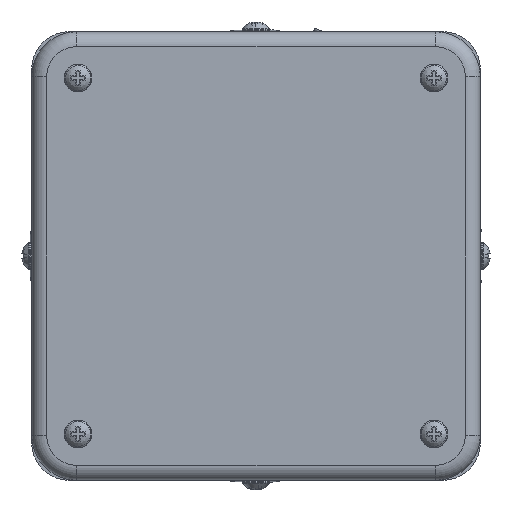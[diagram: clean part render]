
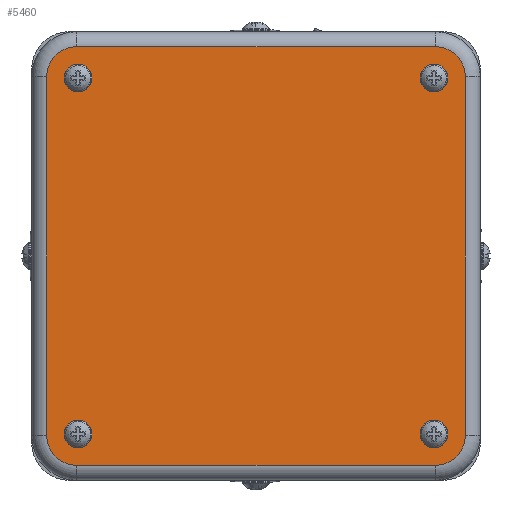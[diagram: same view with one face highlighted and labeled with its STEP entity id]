
A CAD part, left-side view. The second image highlights one B-rep face of the part: STEP entity #5460.
In plain terms, the highlighted planar face has unit normal (-1, 0, 0).
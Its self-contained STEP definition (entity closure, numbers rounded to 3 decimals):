
#1724=CARTESIAN_POINT('',(-123.672,-31.097,-23.376));
#1725=VERTEX_POINT('',#1724);
#1726=CARTESIAN_POINT('',(-123.672,-33.897,-23.376));
#1727=DIRECTION('',(1.0,0.0,0.0));
#1728=DIRECTION('',(0.0,-1.0,0.0));
#1729=AXIS2_PLACEMENT_3D('',#1726,#1727,#1728);
#1730=CIRCLE('',#1729,2.8);
#1731=EDGE_CURVE('',#1725,#1725,#1730,.T.);
#2333=CARTESIAN_POINT('',(-123.672,40.32,-23.376));
#2334=VERTEX_POINT('',#2333);
#2335=CARTESIAN_POINT('',(-123.672,37.52,-23.376));
#2336=DIRECTION('',(1.0,0.0,0.0));
#2337=DIRECTION('',(0.0,-1.0,0.0));
#2338=AXIS2_PLACEMENT_3D('',#2335,#2336,#2337);
#2339=CIRCLE('',#2338,2.8);
#2340=EDGE_CURVE('',#2334,#2334,#2339,.T.);
#5357=CARTESIAN_POINT('',(-123.672,8.839,5.306));
#5358=DIRECTION('',(1.0,0.0,0.0));
#5359=DIRECTION('',(0.0,1.0,0.0));
#5360=AXIS2_PLACEMENT_3D('',#5357,#5358,#5359);
#5361=PLANE('',#5360);
#5362=CARTESIAN_POINT('',(-123.672,37.811,-29.667));
#5363=VERTEX_POINT('',#5362);
#5364=CARTESIAN_POINT('',(-123.672,43.811,-23.667));
#5365=VERTEX_POINT('',#5364);
#5366=CARTESIAN_POINT('',(-123.672,37.811,-23.667));
#5367=DIRECTION('',(1.,0.,0.));
#5368=DIRECTION('',(0.,0.707,-0.707));
#5369=AXIS2_PLACEMENT_3D('',#5366,#5367,#5368);
#5370=CIRCLE('',#5369,6.);
#5371=EDGE_CURVE('',#5363,#5365,#5370,.T.);
#5372=ORIENTED_EDGE('',*,*,#5371,.F.);
#5373=CARTESIAN_POINT('',(-123.672,-34.189,-29.667));
#5374=VERTEX_POINT('',#5373);
#5375=CARTESIAN_POINT('',(-123.672,-34.189,-29.667));
#5376=DIRECTION('',(0.0,1.0,0.0));
#5377=VECTOR('',#5376,72.0);
#5378=LINE('',#5375,#5377);
#5379=EDGE_CURVE('',#5374,#5363,#5378,.T.);
#5380=ORIENTED_EDGE('',*,*,#5379,.F.);
#5381=CARTESIAN_POINT('',(-123.672,-40.189,-23.667));
#5382=VERTEX_POINT('',#5381);
#5383=CARTESIAN_POINT('',(-123.672,-34.189,-23.667));
#5384=DIRECTION('',(1.,0.,0.));
#5385=DIRECTION('',(0.,-0.707,-0.707));
#5386=AXIS2_PLACEMENT_3D('',#5383,#5384,#5385);
#5387=CIRCLE('',#5386,6.);
#5388=EDGE_CURVE('',#5382,#5374,#5387,.T.);
#5389=ORIENTED_EDGE('',*,*,#5388,.F.);
#5390=CARTESIAN_POINT('',(-123.672,-40.189,48.333));
#5391=VERTEX_POINT('',#5390);
#5392=CARTESIAN_POINT('',(-123.672,-40.189,48.333));
#5393=DIRECTION('',(0.0,0.0,-1.0));
#5394=VECTOR('',#5393,72.0);
#5395=LINE('',#5392,#5394);
#5396=EDGE_CURVE('',#5391,#5382,#5395,.T.);
#5397=ORIENTED_EDGE('',*,*,#5396,.F.);
#5398=CARTESIAN_POINT('',(-123.672,-34.189,54.333));
#5399=VERTEX_POINT('',#5398);
#5400=CARTESIAN_POINT('',(-123.672,-34.189,48.333));
#5401=DIRECTION('',(1.,0.,0.));
#5402=DIRECTION('',(0.,-0.707,0.707));
#5403=AXIS2_PLACEMENT_3D('',#5400,#5401,#5402);
#5404=CIRCLE('',#5403,6.);
#5405=EDGE_CURVE('',#5399,#5391,#5404,.T.);
#5406=ORIENTED_EDGE('',*,*,#5405,.F.);
#5407=CARTESIAN_POINT('',(-123.672,37.811,54.333));
#5408=VERTEX_POINT('',#5407);
#5409=CARTESIAN_POINT('',(-123.672,37.811,54.333));
#5410=DIRECTION('',(0.0,-1.0,0.0));
#5411=VECTOR('',#5410,72.);
#5412=LINE('',#5409,#5411);
#5413=EDGE_CURVE('',#5408,#5399,#5412,.T.);
#5414=ORIENTED_EDGE('',*,*,#5413,.F.);
#5415=CARTESIAN_POINT('',(-123.672,43.811,48.333));
#5416=VERTEX_POINT('',#5415);
#5417=CARTESIAN_POINT('',(-123.672,37.811,48.333));
#5418=DIRECTION('',(1.,0.,0.));
#5419=DIRECTION('',(0.,0.707,0.707));
#5420=AXIS2_PLACEMENT_3D('',#5417,#5418,#5419);
#5421=CIRCLE('',#5420,6.);
#5422=EDGE_CURVE('',#5416,#5408,#5421,.T.);
#5423=ORIENTED_EDGE('',*,*,#5422,.F.);
#5424=CARTESIAN_POINT('',(-123.672,43.811,-23.667));
#5425=DIRECTION('',(0.0,0.0,1.0));
#5426=VECTOR('',#5425,72.0);
#5427=LINE('',#5424,#5426);
#5428=EDGE_CURVE('',#5365,#5416,#5427,.T.);
#5429=ORIENTED_EDGE('',*,*,#5428,.F.);
#5430=EDGE_LOOP('',(#5372,#5380,#5389,#5397,#5406,#5414,#5423,#5429));
#5431=FACE_OUTER_BOUND('',#5430,.T.);
#5432=CARTESIAN_POINT('',(-123.672,-31.097,48.042));
#5433=VERTEX_POINT('',#5432);
#5434=CARTESIAN_POINT('',(-123.672,-33.897,48.042));
#5435=DIRECTION('',(1.0,0.0,0.0));
#5436=DIRECTION('',(0.0,-1.0,0.0));
#5437=AXIS2_PLACEMENT_3D('',#5434,#5435,#5436);
#5438=CIRCLE('',#5437,2.8);
#5439=EDGE_CURVE('',#5433,#5433,#5438,.T.);
#5440=ORIENTED_EDGE('',*,*,#5439,.T.);
#5441=EDGE_LOOP('',(#5440));
#5442=FACE_BOUND('',#5441,.T.);
#5443=ORIENTED_EDGE('',*,*,#1731,.T.);
#5444=EDGE_LOOP('',(#5443));
#5445=FACE_BOUND('',#5444,.T.);
#5446=CARTESIAN_POINT('',(-123.672,40.32,48.042));
#5447=VERTEX_POINT('',#5446);
#5448=CARTESIAN_POINT('',(-123.672,37.52,48.042));
#5449=DIRECTION('',(1.0,0.0,0.0));
#5450=DIRECTION('',(0.0,-1.0,0.0));
#5451=AXIS2_PLACEMENT_3D('',#5448,#5449,#5450);
#5452=CIRCLE('',#5451,2.8);
#5453=EDGE_CURVE('',#5447,#5447,#5452,.T.);
#5454=ORIENTED_EDGE('',*,*,#5453,.T.);
#5455=EDGE_LOOP('',(#5454));
#5456=FACE_BOUND('',#5455,.T.);
#5457=ORIENTED_EDGE('',*,*,#2340,.T.);
#5458=EDGE_LOOP('',(#5457));
#5459=FACE_BOUND('',#5458,.T.);
#5460=ADVANCED_FACE('',(#5431,#5442,#5445,#5456,#5459),#5361,.F.);
